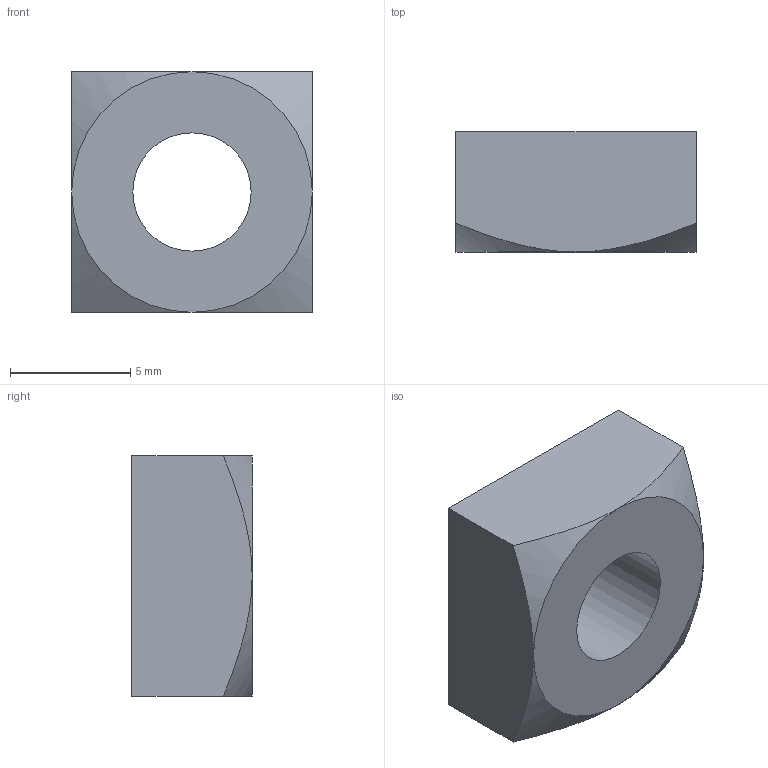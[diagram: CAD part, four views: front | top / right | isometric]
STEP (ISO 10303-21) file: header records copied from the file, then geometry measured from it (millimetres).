
FILE_DESCRIPTION(/* description */ ('Unknown'),/* implementation_level */ '2;1');
FILE_NAME(/* name */ 'IN06M6',/* time_stamp */ '2026-09-29T09:41:54+08:00',/* author */ ('Unknown'),/* organization */ ('Unknown'),/* preprocessor_version */ 'ST-DEVELOPER v16.7',/* originating_system */ 'DEX',/* authorisation */ $);
FILE_SCHEMA (('AUTOMOTIVE_DESIGN {1 0 10303 214 3 1 1}'));
Length unit declared in the file: millimetre
Products named in the file (1): IN06M6
Bounding box: 10 x 5 x 10 mm (x, y, z)
Volume: 397.3 mm3; surface area: 425.5 mm2
Topology: 1 solids, 1 shells, 11 faces, 23 edges, 14 vertices
Faces by surface type: plane 6, cone 4, cylinder 1
Full cylindrical faces by diameter (mm): 4.917 x1
Entity records: 399 total; most frequent: CARTESIAN_POINT 72, ORIENTED_EDGE 44, DIRECTION 44, EDGE_CURVE 22, AXIS2_PLACEMENT_3D 18, VERTEX_POINT 14, EDGE_LOOP 14, FACE_BOUND 14
